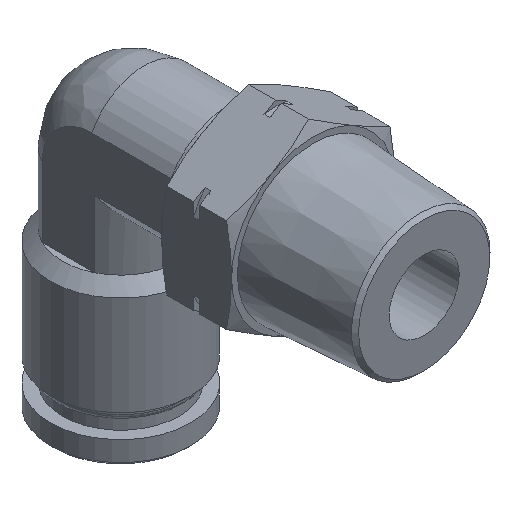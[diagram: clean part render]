
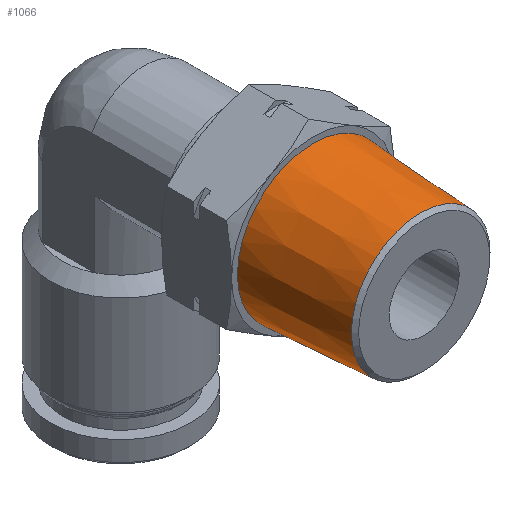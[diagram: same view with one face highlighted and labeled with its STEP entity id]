
A CAD part, isometric view. The second image highlights one B-rep face of the part: STEP entity #1066.
In plain terms, the highlighted conical face has half-angle 3.5 degrees and reference radius 6.21 mm.
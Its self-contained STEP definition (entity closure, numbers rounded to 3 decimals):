
#29=CONICAL_SURFACE('',#1171,6.209,0.061);
#107=FACE_OUTER_BOUND('',#174,.T.);
#174=EDGE_LOOP('',(#788,#789,#790,#791,#792));
#241=CIRCLE('',#1169,5.937);
#242=CIRCLE('',#1170,5.937);
#243=CIRCLE('',#1172,6.5);
#333=LINE('',#1751,#405);
#405=VECTOR('',#1383,6.209);
#481=VERTEX_POINT('',#1744);
#482=VERTEX_POINT('',#1746);
#483=VERTEX_POINT('',#1750);
#599=EDGE_CURVE('',#481,#482,#241,.T.);
#600=EDGE_CURVE('',#482,#481,#242,.T.);
#601=EDGE_CURVE('',#482,#483,#333,.T.);
#602=EDGE_CURVE('',#483,#483,#243,.T.);
#788=ORIENTED_EDGE('',*,*,#599,.F.);
#789=ORIENTED_EDGE('',*,*,#600,.F.);
#790=ORIENTED_EDGE('',*,*,#601,.T.);
#791=ORIENTED_EDGE('',*,*,#602,.F.);
#792=ORIENTED_EDGE('',*,*,#601,.F.);
#1066=ADVANCED_FACE('',(#107),#29,.T.);
#1169=AXIS2_PLACEMENT_3D('',#1747,#1377,#1378);
#1170=AXIS2_PLACEMENT_3D('',#1748,#1379,#1380);
#1171=AXIS2_PLACEMENT_3D('',#1749,#1381,#1382);
#1172=AXIS2_PLACEMENT_3D('',#1752,#1384,#1385);
#1377=DIRECTION('center_axis',(0.,-1.,0.));
#1378=DIRECTION('ref_axis',(0.,0.,1.));
#1379=DIRECTION('center_axis',(0.,-1.,0.));
#1380=DIRECTION('ref_axis',(0.,0.,1.));
#1381=DIRECTION('center_axis',(0.,1.,0.));
#1382=DIRECTION('ref_axis',(0.,0.,-1.));
#1383=DIRECTION('',(0.,0.998,0.061));
#1384=DIRECTION('center_axis',(0.,1.,0.));
#1385=DIRECTION('ref_axis',(0.,0.,-1.));
#1744=CARTESIAN_POINT('',(0.,-16.201,-5.937));
#1746=CARTESIAN_POINT('',(0.,-16.201,5.937));
#1747=CARTESIAN_POINT('Origin',(0.,-16.201,
0.));
#1748=CARTESIAN_POINT('Origin',(0.,-16.201,
0.));
#1749=CARTESIAN_POINT('Origin',(0.,-11.75,0.));
#1750=CARTESIAN_POINT('',(0.,-7.,6.5));
#1751=CARTESIAN_POINT('',(0.,-11.75,6.209));
#1752=CARTESIAN_POINT('Origin',(0.,-7.,0.));
